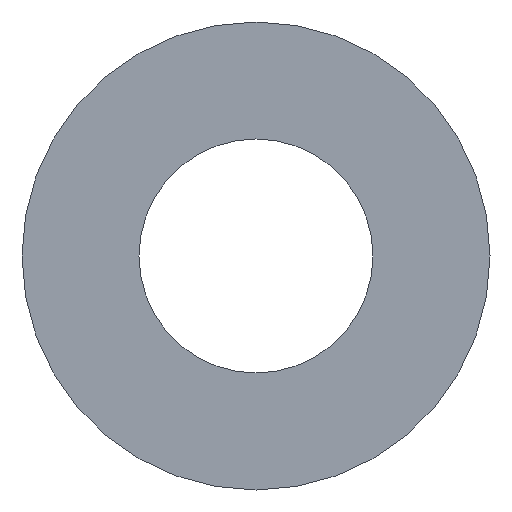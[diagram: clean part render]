
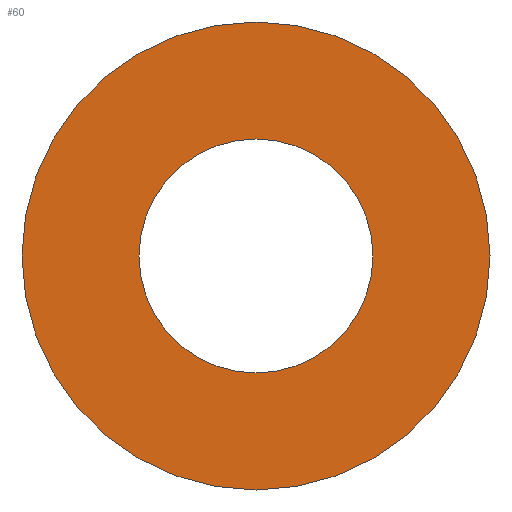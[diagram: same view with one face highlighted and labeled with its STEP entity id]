
A CAD part, left-side view. The second image highlights one B-rep face of the part: STEP entity #60.
In plain terms, the highlighted planar face has unit normal (-1, 0, 0).
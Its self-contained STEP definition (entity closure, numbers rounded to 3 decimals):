
#22=ORIENTED_EDGE('',*,*,#30,.F.);
#23=ORIENTED_EDGE('',*,*,#31,.T.);
#30=EDGE_CURVE('',#34,#34,#38,.T.);
#31=EDGE_CURVE('',#35,#35,#39,.T.);
#34=VERTEX_POINT('',#106);
#35=VERTEX_POINT('',#108);
#38=CIRCLE('',#78,4.);
#39=CIRCLE('',#79,2.);
#42=EDGE_LOOP('',(#22));
#43=EDGE_LOOP('',(#23));
#50=FACE_BOUND('',#42,.T.);
#51=FACE_BOUND('',#43,.T.);
#58=PLANE('',#77);
#60=ADVANCED_FACE('',(#50,#51),#58,.F.);
#77=AXIS2_PLACEMENT_3D('',#104,#87,#88);
#78=AXIS2_PLACEMENT_3D('',#105,#89,#90);
#79=AXIS2_PLACEMENT_3D('',#107,#91,#92);
#87=DIRECTION('',(1.,0.,0.));
#88=DIRECTION('',(0.,0.,-1.));
#89=DIRECTION('',(1.,0.,0.));
#90=DIRECTION('',(0.,0.,-1.));
#91=DIRECTION('',(1.,0.,0.));
#92=DIRECTION('',(0.,0.,-1.));
#104=CARTESIAN_POINT('',(0.,0.,0.));
#105=CARTESIAN_POINT('',(0.,0.,0.));
#106=CARTESIAN_POINT('',(0.,0.,-4.));
#107=CARTESIAN_POINT('',(0.,0.,0.));
#108=CARTESIAN_POINT('',(0.,0.,-2.));
